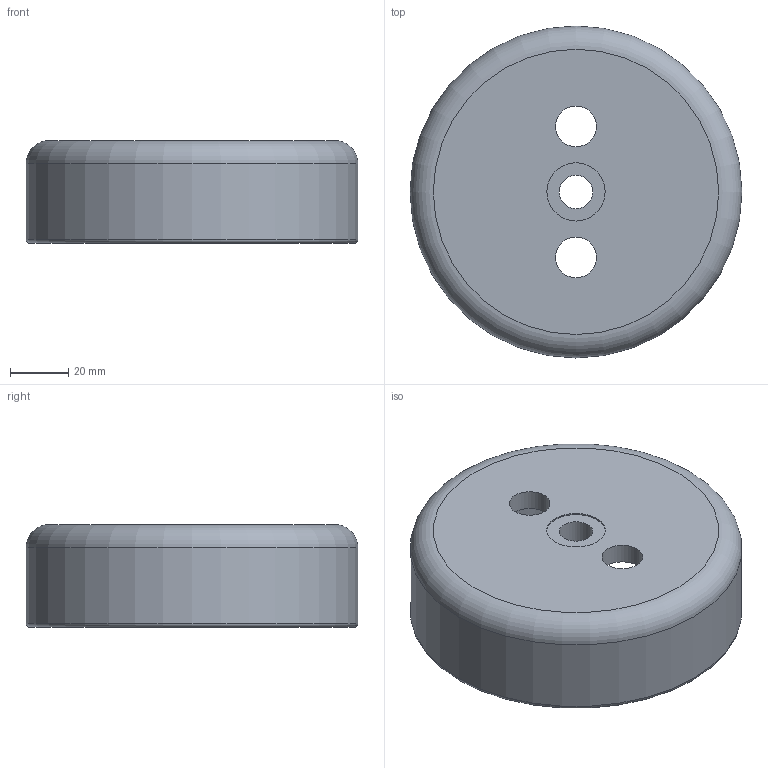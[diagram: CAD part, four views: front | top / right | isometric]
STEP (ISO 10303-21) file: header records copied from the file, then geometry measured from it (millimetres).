
FILE_DESCRIPTION(('Open CASCADE Model'),'2;1');
FILE_NAME('Open CASCADE Shape Model','2026-11-02T16:15:30',('Author'),( 'Open CASCADE'),'Open CASCADE STEP processor 7.9','Open CASCADE 7.9' ,'Unknown');
FILE_SCHEMA(('AUTOMOTIVE_DESIGN { 1 0 10303 214 1 1 1 1 }'));
Length unit declared in the file: millimetre
Products named in the file (1): Open CASCADE STEP translator 7.9 6
Bounding box: 114 x 114 x 35.34 mm (x, y, z)
Volume: 96275.5 mm3; surface area: 41209.6 mm2
Topology: 1 solids, 1 shells, 16 faces, 30 edges, 18 vertices
Faces by surface type: cylinder 7, torus 5, plane 4
Full cylindrical faces by diameter (mm): 11.5 x1, 14 x2, 17.5 x1, 20 x1, 108 x1, 114 x1
Entity records: 832 total; most frequent: CARTESIAN_POINT 168, DIRECTION 134, ORIENTED_EDGE 60, PCURVE 60, DEFINITIONAL_REPRESENTATION 60, LINE 48, VECTOR 48, AXIS2_PLACEMENT_3D 40
